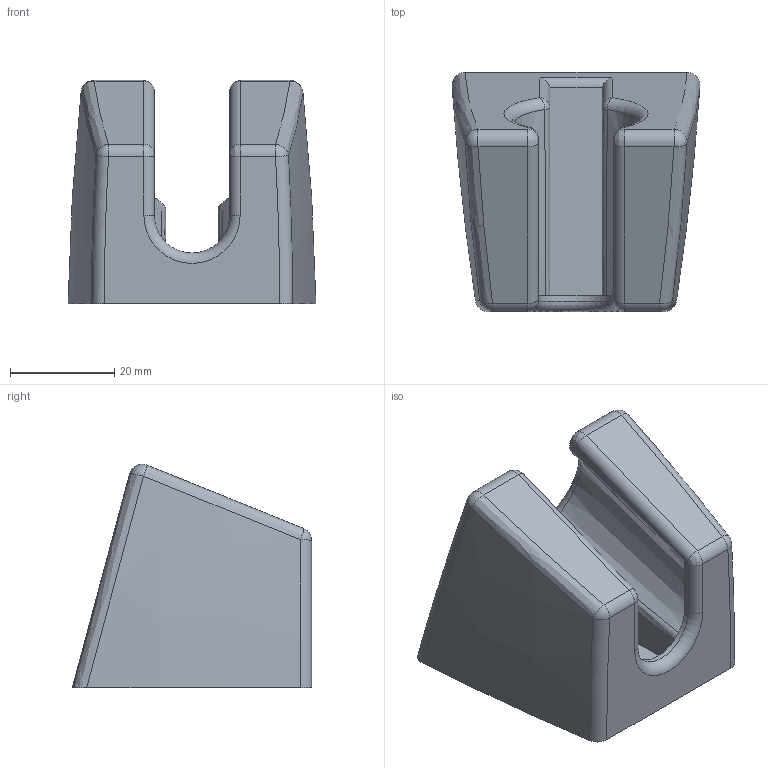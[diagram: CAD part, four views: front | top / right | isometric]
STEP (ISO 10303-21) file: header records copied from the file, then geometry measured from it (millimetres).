
FILE_DESCRIPTION((''),'2;1');
FILE_NAME('76610_POS1_SW0001','2026-09-10T14:42:43',('simi1'),(''),'CREO PARAMETRIC BY PTC INC, 2022244','CREO PARAMETRIC BY PTC INC, 2022244','');
FILE_SCHEMA(('AUTOMOTIVE_DESIGN { 1 0 10303 214 1 1 1 1 }'));
Length unit declared in the file: millimetre
Products named in the file (1): 76610_POS1_SW0001
Bounding box: 47.64 x 46 x 42.96 mm (x, y, z)
Surface area: 11200.2 mm2 (no closed solid volume)
Topology: 0 solids, 1 shells, 54 faces, 122 edges, 70 vertices
Faces by surface type: cylinder 14, bspline 14, plane 11, sphere 8, torus 5, cone 2
Entity records: 1906 total; most frequent: CARTESIAN_POINT 736, ORIENTED_EDGE 244, DIRECTION 231, EDGE_CURVE 122, AXIS2_PLACEMENT_3D 97, VERTEX_POINT 70, CIRCLE 57, EDGE_LOOP 54
